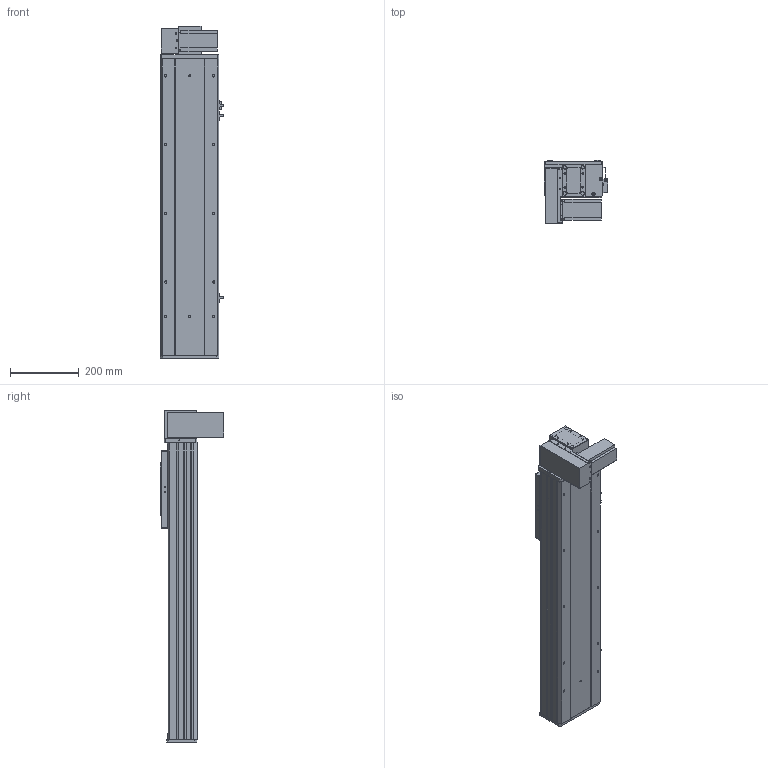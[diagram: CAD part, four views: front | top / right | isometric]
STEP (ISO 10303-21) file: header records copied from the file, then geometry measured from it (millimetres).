
FILE_DESCRIPTION (( 'STEP AP203' ), '1' );
FILE_NAME ('Y170CB-D105-S550-BM-P400W.STEP', '2020-02-20T06:14:37', ( '微软用户' ), ( '微软中国' ), 'SwSTEP 2.0', 'SolidWorks 2017', '' );
FILE_SCHEMA (( 'CONFIG_CONTROL_DESIGN' ));
Length unit declared in the file: millimetre
Products named in the file (18): 70B喘謫眊----; 70C-雄赽釱-奻-; B-源倛裔啣; Y170CB-D105-S550-BM-P400W; 0C--雄赽釱俋欶-170; 0B-萇儂楊擘啣; 70CB-詩湍--; san松下电机400不带刹车----; Y100-135俋离換覜ん--; 70CB-掛极-; Y170CB-陔俋离換覜結え---; --70CB --喘謫眊楊擘啣-; Y1埴倛裔; 70CB-耜裔啣-; 17B-耜蚾蟀諉啣----; 70C--詩湍揤踡え-; 00B-俋欶BM--163; 70CB--耜裔
Assembly tree (21 placements, depth 2):
  Y170CB-D105-S550-BM-P400W
    B-源倛裔啣
    0B-萇儂楊擘啣
    san松下电机400不带刹车----
    70CB-掛极-
    --70CB --喘謫眊楊擘啣-
    70CB-耜裔啣-  x2
    70C--詩湍揤踡え-  x2
    70CB--耜裔
    70C-雄赽釱-奻-
    0C--雄赽釱俋欶-170
    70CB-詩湍--
    Y100-135俋离換覜ん--  x3
    Y170CB-陔俋离換覜結え---
    Y1埴倛裔
    17B-耜蚾蟀諉啣----
    00B-俋欶BM--163
    70B喘謫眊----
Bounding box: 183.5 x 184 x 966 mm (x, y, z)
Volume: 4767438.6 mm3; surface area: 1698758.3 mm2
Topology: 21 solids, 21 shells, 991 faces, 2645 edges, 1754 vertices
Faces by surface type: cylinder 505, plane 462, cone 24
Entity records: 31452 total; most frequent: CARTESIAN_POINT 5736, DIRECTION 5114, ORIENTED_EDGE 4772, EDGE_CURVE 2386, AXIS2_PLACEMENT_3D 1868, VERTEX_POINT 1584, VECTOR 1378, LINE 1378
